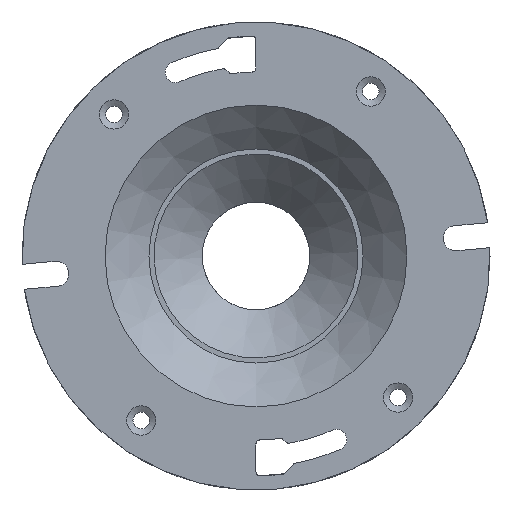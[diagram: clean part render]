
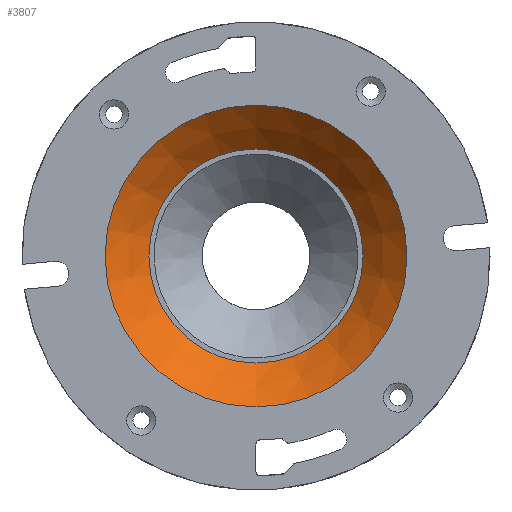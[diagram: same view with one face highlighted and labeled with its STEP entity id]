
A CAD part, front view. The second image highlights one B-rep face of the part: STEP entity #3807.
In plain terms, the highlighted conical face has half-angle 45 degrees and reference radius 40.672 mm.
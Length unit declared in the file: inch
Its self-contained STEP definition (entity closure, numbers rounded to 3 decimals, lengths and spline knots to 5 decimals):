
#208=CONICAL_SURFACE('',#4314,1.60125,0.785);
#388=LINE('',#8419,#615);
#615=VECTOR('',#5378,1.60125);
#971=FACE_OUTER_BOUND('',#1218,.T.);
#1218=EDGE_LOOP('',(#3292,#3293,#3294,#3295,#3296,#3297));
#1504=CIRCLE('',#4312,1.60125);
#1505=CIRCLE('',#4313,1.60125);
#1506=CIRCLE('',#4315,2.2575);
#1507=CIRCLE('',#4316,2.2575);
#1813=VERTEX_POINT('',#8412);
#1814=VERTEX_POINT('',#8413);
#1815=VERTEX_POINT('',#8418);
#1816=VERTEX_POINT('',#8420);
#2325=EDGE_CURVE('',#1813,#1814,#1504,.T.);
#2326=EDGE_CURVE('',#1814,#1813,#1505,.T.);
#2328=EDGE_CURVE('',#1813,#1815,#388,.T.);
#2329=EDGE_CURVE('',#1816,#1815,#1506,.T.);
#2330=EDGE_CURVE('',#1815,#1816,#1507,.T.);
#3292=ORIENTED_EDGE('',*,*,#2325,.T.);
#3293=ORIENTED_EDGE('',*,*,#2326,.T.);
#3294=ORIENTED_EDGE('',*,*,#2328,.T.);
#3295=ORIENTED_EDGE('',*,*,#2329,.F.);
#3296=ORIENTED_EDGE('',*,*,#2330,.F.);
#3297=ORIENTED_EDGE('',*,*,#2328,.F.);
#3807=ADVANCED_FACE('',(#971),#208,.F.);
#4312=AXIS2_PLACEMENT_3D('',#8414,#5371,#5372);
#4313=AXIS2_PLACEMENT_3D('',#8415,#5373,#5374);
#4314=AXIS2_PLACEMENT_3D('',#8417,#5376,#5377);
#4315=AXIS2_PLACEMENT_3D('',#8421,#5379,#5380);
#4316=AXIS2_PLACEMENT_3D('',#8422,#5381,#5382);
#5371=DIRECTION('center_axis',(0.,-1.,0.));
#5372=DIRECTION('ref_axis',(0.,0.,-1.));
#5373=DIRECTION('center_axis',(0.,-1.,0.));
#5374=DIRECTION('ref_axis',(0.,0.,-1.));
#5376=DIRECTION('center_axis',(0.,1.,0.));
#5377=DIRECTION('ref_axis',(0.,0.,1.));
#5378=DIRECTION('',(0.,0.707,-0.707));
#5379=DIRECTION('center_axis',(0.,-1.,0.));
#5380=DIRECTION('ref_axis',(0.,0.,-1.));
#5381=DIRECTION('center_axis',(0.,-1.,0.));
#5382=DIRECTION('ref_axis',(0.,0.,-1.));
#8412=CARTESIAN_POINT('',(0.,1.65625,-1.60125));
#8413=CARTESIAN_POINT('',(0.,1.65625,1.60125));
#8414=CARTESIAN_POINT('Origin',(0.,1.65625,0.));
#8415=CARTESIAN_POINT('Origin',(0.,1.65625,0.));
#8417=CARTESIAN_POINT('Origin',(0.,1.65625,0.));
#8418=CARTESIAN_POINT('',(0.,2.3125,-2.2575));
#8419=CARTESIAN_POINT('',(0.,1.65625,-1.60125));
#8420=CARTESIAN_POINT('',(0.,2.3125,2.2575));
#8421=CARTESIAN_POINT('Origin',(0.,2.3125,0.));
#8422=CARTESIAN_POINT('Origin',(0.,2.3125,0.));
